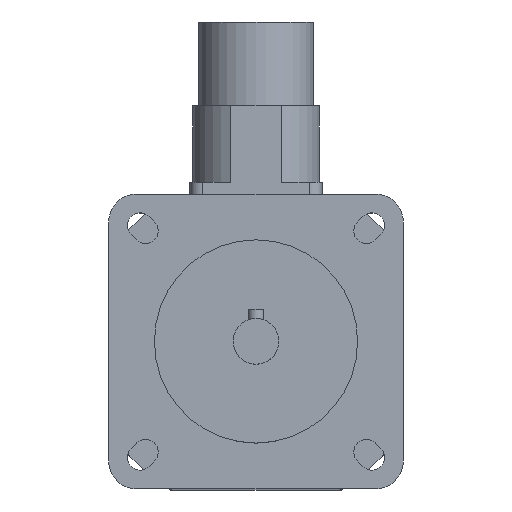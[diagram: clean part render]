
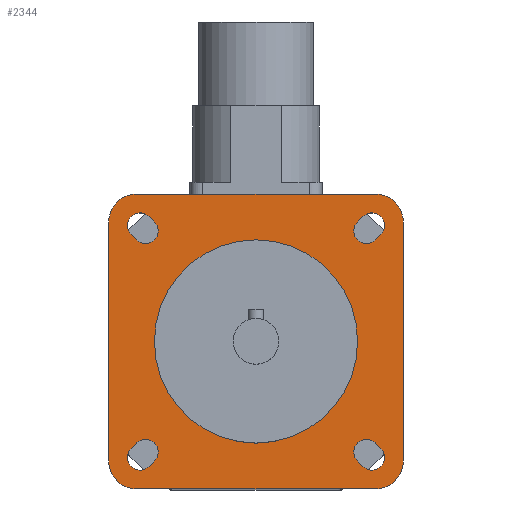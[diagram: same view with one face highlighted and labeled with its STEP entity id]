
A CAD part, top view. The second image highlights one B-rep face of the part: STEP entity #2344.
In plain terms, the highlighted planar face has unit normal (0, 0, 1).
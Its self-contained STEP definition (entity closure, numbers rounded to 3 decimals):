
#28=FACE_BOUND('',#421,.T.);
#29=FACE_BOUND('',#422,.T.);
#30=FACE_BOUND('',#423,.T.);
#31=FACE_BOUND('',#424,.T.);
#32=FACE_BOUND('',#425,.T.);
#46=CIRCLE('',#2435,20.);
#83=CIRCLE('',#2499,2.5);
#87=CIRCLE('',#2506,2.5);
#88=CIRCLE('',#2509,2.5);
#89=CIRCLE('',#2512,2.5);
#99=CIRCLE('',#2527,2.5);
#100=CIRCLE('',#2530,2.5);
#101=CIRCLE('',#2533,2.5);
#102=CIRCLE('',#2536,2.5);
#103=CIRCLE('',#2538,5.5);
#104=CIRCLE('',#2540,5.5);
#105=CIRCLE('',#2542,5.5);
#106=CIRCLE('',#2544,5.5);
#281=FACE_OUTER_BOUND('',#420,.T.);
#420=EDGE_LOOP('',(#1806,#1807,#1808,#1809,#1810,#1811,#1812,#1813));
#421=EDGE_LOOP('',(#1814));
#422=EDGE_LOOP('',(#1815,#1816,#1817,#1818));
#423=EDGE_LOOP('',(#1819,#1820,#1821,#1822));
#424=EDGE_LOOP('',(#1823,#1824,#1825,#1826));
#425=EDGE_LOOP('',(#1827,#1828,#1829,#1830));
#564=LINE('',#3642,#783);
#572=LINE('',#3666,#791);
#576=LINE('',#3676,#795);
#580=LINE('',#3686,#799);
#596=LINE('',#3737,#815);
#598=LINE('',#3743,#817);
#600=LINE('',#3749,#819);
#602=LINE('',#3755,#821);
#611=LINE('',#3783,#830);
#612=LINE('',#3784,#831);
#613=LINE('',#3785,#832);
#614=LINE('',#3786,#833);
#783=VECTOR('',#2885,1.5);
#791=VECTOR('',#2907,1.5);
#795=VECTOR('',#2917,1.5);
#799=VECTOR('',#2927,1.5);
#815=VECTOR('',#2973,1.5);
#817=VECTOR('',#2981,1.5);
#819=VECTOR('',#2989,1.5);
#821=VECTOR('',#2997,1.5);
#830=VECTOR('',#3028,47.);
#831=VECTOR('',#3029,47.);
#832=VECTOR('',#3030,47.);
#833=VECTOR('',#3031,47.);
#956=VERTEX_POINT('',#3463);
#1021=VERTEX_POINT('',#3639);
#1022=VERTEX_POINT('',#3641);
#1023=VERTEX_POINT('',#3645);
#1030=VERTEX_POINT('',#3663);
#1031=VERTEX_POINT('',#3665);
#1032=VERTEX_POINT('',#3669);
#1033=VERTEX_POINT('',#3673);
#1034=VERTEX_POINT('',#3675);
#1035=VERTEX_POINT('',#3679);
#1036=VERTEX_POINT('',#3683);
#1037=VERTEX_POINT('',#3685);
#1038=VERTEX_POINT('',#3689);
#1057=VERTEX_POINT('',#3735);
#1058=VERTEX_POINT('',#3741);
#1059=VERTEX_POINT('',#3747);
#1060=VERTEX_POINT('',#3753);
#1061=VERTEX_POINT('',#3759);
#1062=VERTEX_POINT('',#3761);
#1063=VERTEX_POINT('',#3765);
#1064=VERTEX_POINT('',#3767);
#1065=VERTEX_POINT('',#3771);
#1066=VERTEX_POINT('',#3773);
#1067=VERTEX_POINT('',#3777);
#1068=VERTEX_POINT('',#3779);
#1190=EDGE_CURVE('',#956,#956,#46,.T.);
#1276=EDGE_CURVE('',#1022,#1021,#564,.T.);
#1279=EDGE_CURVE('',#1021,#1023,#83,.T.);
#1288=EDGE_CURVE('',#1031,#1030,#572,.T.);
#1291=EDGE_CURVE('',#1030,#1032,#87,.T.);
#1293=EDGE_CURVE('',#1034,#1033,#576,.T.);
#1296=EDGE_CURVE('',#1033,#1035,#88,.T.);
#1298=EDGE_CURVE('',#1037,#1036,#580,.T.);
#1301=EDGE_CURVE('',#1036,#1038,#89,.T.);
#1324=EDGE_CURVE('',#1035,#1057,#596,.T.);
#1325=EDGE_CURVE('',#1057,#1034,#99,.T.);
#1327=EDGE_CURVE('',#1032,#1058,#598,.T.);
#1328=EDGE_CURVE('',#1058,#1031,#100,.T.);
#1330=EDGE_CURVE('',#1038,#1059,#600,.T.);
#1331=EDGE_CURVE('',#1059,#1037,#101,.T.);
#1333=EDGE_CURVE('',#1023,#1060,#602,.T.);
#1334=EDGE_CURVE('',#1060,#1022,#102,.T.);
#1336=EDGE_CURVE('',#1062,#1061,#103,.T.);
#1339=EDGE_CURVE('',#1064,#1063,#104,.T.);
#1342=EDGE_CURVE('',#1066,#1065,#105,.T.);
#1345=EDGE_CURVE('',#1068,#1067,#106,.T.);
#1347=EDGE_CURVE('',#1061,#1068,#611,.T.);
#1348=EDGE_CURVE('',#1067,#1066,#612,.T.);
#1349=EDGE_CURVE('',#1065,#1064,#613,.T.);
#1350=EDGE_CURVE('',#1063,#1062,#614,.T.);
#1806=ORIENTED_EDGE('',*,*,#1347,.T.);
#1807=ORIENTED_EDGE('',*,*,#1345,.T.);
#1808=ORIENTED_EDGE('',*,*,#1348,.T.);
#1809=ORIENTED_EDGE('',*,*,#1342,.T.);
#1810=ORIENTED_EDGE('',*,*,#1349,.T.);
#1811=ORIENTED_EDGE('',*,*,#1339,.T.);
#1812=ORIENTED_EDGE('',*,*,#1350,.T.);
#1813=ORIENTED_EDGE('',*,*,#1336,.T.);
#1814=ORIENTED_EDGE('',*,*,#1190,.T.);
#1815=ORIENTED_EDGE('',*,*,#1324,.T.);
#1816=ORIENTED_EDGE('',*,*,#1325,.T.);
#1817=ORIENTED_EDGE('',*,*,#1293,.T.);
#1818=ORIENTED_EDGE('',*,*,#1296,.T.);
#1819=ORIENTED_EDGE('',*,*,#1327,.T.);
#1820=ORIENTED_EDGE('',*,*,#1328,.T.);
#1821=ORIENTED_EDGE('',*,*,#1288,.T.);
#1822=ORIENTED_EDGE('',*,*,#1291,.T.);
#1823=ORIENTED_EDGE('',*,*,#1330,.T.);
#1824=ORIENTED_EDGE('',*,*,#1331,.T.);
#1825=ORIENTED_EDGE('',*,*,#1298,.T.);
#1826=ORIENTED_EDGE('',*,*,#1301,.T.);
#1827=ORIENTED_EDGE('',*,*,#1333,.T.);
#1828=ORIENTED_EDGE('',*,*,#1334,.T.);
#1829=ORIENTED_EDGE('',*,*,#1276,.T.);
#1830=ORIENTED_EDGE('',*,*,#1279,.T.);
#2248=PLANE('',#2545);
#2344=ADVANCED_FACE('',(#281,#28,#29,#30,#31,#32),#2248,.T.);
#2435=AXIS2_PLACEMENT_3D('',#3464,#2710,#2711);
#2499=AXIS2_PLACEMENT_3D('',#3647,#2890,#2891);
#2506=AXIS2_PLACEMENT_3D('',#3671,#2912,#2913);
#2509=AXIS2_PLACEMENT_3D('',#3681,#2922,#2923);
#2512=AXIS2_PLACEMENT_3D('',#3691,#2932,#2933);
#2527=AXIS2_PLACEMENT_3D('',#3739,#2976,#2977);
#2530=AXIS2_PLACEMENT_3D('',#3745,#2984,#2985);
#2533=AXIS2_PLACEMENT_3D('',#3751,#2992,#2993);
#2536=AXIS2_PLACEMENT_3D('',#3757,#3000,#3001);
#2538=AXIS2_PLACEMENT_3D('',#3762,#3005,#3006);
#2540=AXIS2_PLACEMENT_3D('',#3768,#3011,#3012);
#2542=AXIS2_PLACEMENT_3D('',#3774,#3017,#3018);
#2544=AXIS2_PLACEMENT_3D('',#3780,#3023,#3024);
#2545=AXIS2_PLACEMENT_3D('',#3782,#3026,#3027);
#2710=DIRECTION('center_axis',(0.,0.,-1.));
#2711=DIRECTION('ref_axis',(-1.,0.,0.));
#2885=DIRECTION('',(-0.707,-0.707,0.));
#2890=DIRECTION('center_axis',(0.,0.,-1.));
#2891=DIRECTION('ref_axis',(0.707,-0.707,0.));
#2907=DIRECTION('',(-0.707,0.707,0.));
#2912=DIRECTION('center_axis',(0.,0.,-1.));
#2913=DIRECTION('ref_axis',(-0.707,-0.707,0.));
#2917=DIRECTION('',(-0.707,-0.707,0.));
#2922=DIRECTION('center_axis',(0.,0.,-1.));
#2923=DIRECTION('ref_axis',(0.707,-0.707,0.));
#2927=DIRECTION('',(-0.707,0.707,0.));
#2932=DIRECTION('center_axis',(0.,0.,-1.));
#2933=DIRECTION('ref_axis',(-0.707,-0.707,0.));
#2973=DIRECTION('',(0.707,0.707,0.));
#2976=DIRECTION('center_axis',(0.,0.,-1.));
#2977=DIRECTION('ref_axis',(-0.707,0.707,0.));
#2981=DIRECTION('',(0.707,-0.707,0.));
#2984=DIRECTION('center_axis',(0.,0.,-1.));
#2985=DIRECTION('ref_axis',(0.707,0.707,0.));
#2989=DIRECTION('',(0.707,-0.707,0.));
#2992=DIRECTION('center_axis',(0.,0.,-1.));
#2993=DIRECTION('ref_axis',(0.707,0.707,0.));
#2997=DIRECTION('',(0.707,0.707,0.));
#3000=DIRECTION('center_axis',(0.,0.,-1.));
#3001=DIRECTION('ref_axis',(-0.707,0.707,0.));
#3005=DIRECTION('center_axis',(0.,0.,1.));
#3006=DIRECTION('ref_axis',(1.,0.,0.));
#3011=DIRECTION('center_axis',(0.,0.,1.));
#3012=DIRECTION('ref_axis',(0.,-1.,0.));
#3017=DIRECTION('center_axis',(0.,0.,1.));
#3018=DIRECTION('ref_axis',(-1.,0.,0.));
#3023=DIRECTION('center_axis',(0.,0.,1.));
#3024=DIRECTION('ref_axis',(0.,1.,0.));
#3026=DIRECTION('center_axis',(0.,0.,1.));
#3027=DIRECTION('ref_axis',(1.,0.,0.));
#3028=DIRECTION('',(-1.,0.,0.));
#3029=DIRECTION('',(0.,-1.,0.));
#3030=DIRECTION('',(1.,0.,0.));
#3031=DIRECTION('',(0.,1.,0.));
#3463=CARTESIAN_POINT('',(20.,0.,114.));
#3464=CARTESIAN_POINT('Origin',(0.,0.,114.));
#3639=CARTESIAN_POINT('',(-21.036,-24.572,114.));
#3641=CARTESIAN_POINT('',(-19.976,-23.511,114.));
#3642=CARTESIAN_POINT('',(-9.634,-13.17,114.));
#3645=CARTESIAN_POINT('',(-24.572,-21.036,114.));
#3647=CARTESIAN_POINT('Origin',(-22.804,-22.804,114.));
#3663=CARTESIAN_POINT('',(-24.572,21.036,114.));
#3665=CARTESIAN_POINT('',(-23.511,19.976,114.));
#3666=CARTESIAN_POINT('',(-13.17,9.634,114.));
#3669=CARTESIAN_POINT('',(-21.036,24.572,114.));
#3671=CARTESIAN_POINT('Origin',(-22.804,22.804,114.));
#3673=CARTESIAN_POINT('',(23.511,19.976,114.));
#3675=CARTESIAN_POINT('',(24.572,21.036,114.));
#3676=CARTESIAN_POINT('',(12.64,9.104,114.));
#3679=CARTESIAN_POINT('',(19.976,23.511,114.));
#3681=CARTESIAN_POINT('Origin',(21.744,21.744,114.));
#3683=CARTESIAN_POINT('',(19.976,-23.511,114.));
#3685=CARTESIAN_POINT('',(21.036,-24.572,114.));
#3686=CARTESIAN_POINT('',(9.104,-12.64,114.));
#3689=CARTESIAN_POINT('',(23.511,-19.976,114.));
#3691=CARTESIAN_POINT('Origin',(21.744,-21.744,114.));
#3735=CARTESIAN_POINT('',(21.036,24.572,114.));
#3737=CARTESIAN_POINT('',(9.634,13.17,114.));
#3739=CARTESIAN_POINT('Origin',(22.804,22.804,114.));
#3741=CARTESIAN_POINT('',(-19.976,23.511,114.));
#3743=CARTESIAN_POINT('',(-9.104,12.64,114.));
#3745=CARTESIAN_POINT('Origin',(-21.744,21.744,114.));
#3747=CARTESIAN_POINT('',(24.572,-21.036,114.));
#3749=CARTESIAN_POINT('',(13.17,-9.634,114.));
#3751=CARTESIAN_POINT('Origin',(22.804,-22.804,114.));
#3753=CARTESIAN_POINT('',(-23.511,-19.976,114.));
#3755=CARTESIAN_POINT('',(-12.64,-9.104,114.));
#3757=CARTESIAN_POINT('Origin',(-21.744,-21.744,114.));
#3759=CARTESIAN_POINT('',(23.5,29.,114.));
#3761=CARTESIAN_POINT('',(29.,23.5,114.));
#3762=CARTESIAN_POINT('Origin',(23.5,23.5,114.));
#3765=CARTESIAN_POINT('',(29.,-23.5,114.));
#3767=CARTESIAN_POINT('',(23.5,-29.,114.));
#3768=CARTESIAN_POINT('Origin',(23.5,-23.5,114.));
#3771=CARTESIAN_POINT('',(-23.5,-29.,114.));
#3773=CARTESIAN_POINT('',(-29.,-23.5,114.));
#3774=CARTESIAN_POINT('Origin',(-23.5,-23.5,114.));
#3777=CARTESIAN_POINT('',(-29.,23.5,114.));
#3779=CARTESIAN_POINT('',(-23.5,29.,114.));
#3780=CARTESIAN_POINT('Origin',(-23.5,23.5,114.));
#3782=CARTESIAN_POINT('Origin',(0.,0.,
114.));
#3783=CARTESIAN_POINT('',(23.5,29.,114.));
#3784=CARTESIAN_POINT('',(-29.,23.5,114.));
#3785=CARTESIAN_POINT('',(-23.5,-29.,114.));
#3786=CARTESIAN_POINT('',(29.,-23.5,114.));
